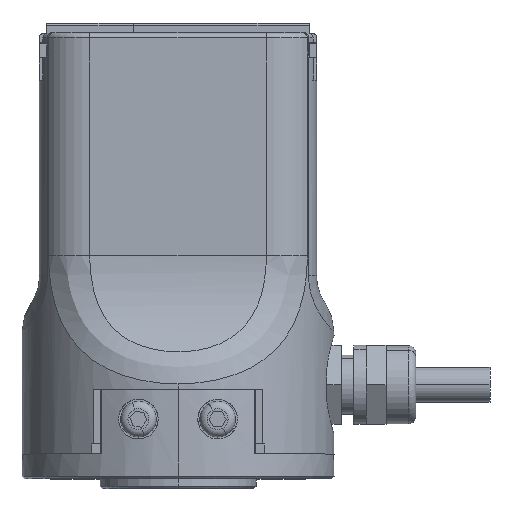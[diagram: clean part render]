
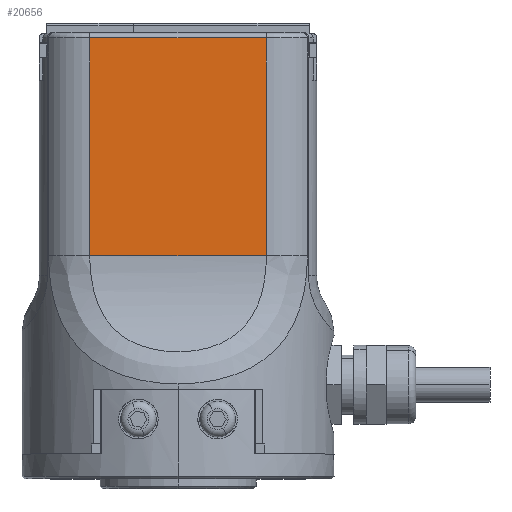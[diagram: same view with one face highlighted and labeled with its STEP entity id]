
A CAD part, top view. The second image highlights one B-rep face of the part: STEP entity #20656.
In plain terms, the highlighted planar face has unit normal (0, 0, 1).
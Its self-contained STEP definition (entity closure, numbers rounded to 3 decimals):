
#296 = DIRECTION ( 'NONE',  ( 0., 1., 0. ) ) ;
#1650 = LINE ( 'NONE', #12170, #8674 ) ;
#1836 = CARTESIAN_POINT ( 'NONE',  ( 17.84, -141.218, 22. ) ) ;
#2350 = VERTEX_POINT ( 'NONE', #5166 ) ;
#3551 = CARTESIAN_POINT ( 'NONE',  ( -31.5, -31., 22. ) ) ;
#5166 = CARTESIAN_POINT ( 'NONE',  ( -17.84, 13., 22. ) ) ;
#5976 = VERTEX_POINT ( 'NONE', #20044 ) ;
#6062 = FACE_OUTER_BOUND ( 'NONE', #15055, .T. ) ;
#6461 = VERTEX_POINT ( 'NONE', #10130 ) ;
#7856 = EDGE_CURVE ( 'NONE', #21318, #5976, #17137, .T. ) ;
#8674 = VECTOR ( 'NONE', #296, 1000. ) ;
#8715 = VECTOR ( 'NONE', #8875, 1000. ) ;
#8875 = DIRECTION ( 'NONE',  ( 0., 1., 0. ) ) ;
#9140 = LINE ( 'NONE', #20015, #16358 ) ;
#9539 = VECTOR ( 'NONE', #22221, 1000. ) ;
#9932 = DIRECTION ( 'NONE',  ( 1., 0., 0. ) ) ;
#10038 = DIRECTION ( 'NONE',  ( 0., 0., 1. ) ) ;
#10130 = CARTESIAN_POINT ( 'NONE',  ( -17.84, -31., 22. ) ) ;
#10479 = ORIENTED_EDGE ( 'NONE', *, *, #13871, .F. ) ;
#10801 = CARTESIAN_POINT ( 'NONE',  ( 17.84, -31., 22. ) ) ;
#11410 = DIRECTION ( 'NONE',  ( -1., 0., 0. ) ) ;
#12170 = CARTESIAN_POINT ( 'NONE',  ( -17.84, -141.218, 22. ) ) ;
#12972 = PLANE ( 'NONE',  #22237 ) ;
#13221 = EDGE_CURVE ( 'NONE', #6461, #21318, #15235, .T. ) ;
#13223 = ORIENTED_EDGE ( 'NONE', *, *, #13221, .T. ) ;
#13871 = EDGE_CURVE ( 'NONE', #6461, #2350, #1650, .T. ) ;
#15055 = EDGE_LOOP ( 'NONE', ( #10479, #13223, #19044, #15707 ) ) ;
#15235 = LINE ( 'NONE', #3551, #9539 ) ;
#15707 = ORIENTED_EDGE ( 'NONE', *, *, #17807, .T. ) ;
#16358 = VECTOR ( 'NONE', #11410, 1000. ) ;
#17137 = LINE ( 'NONE', #1836, #8715 ) ;
#17807 = EDGE_CURVE ( 'NONE', #5976, #2350, #9140, .T. ) ;
#19044 = ORIENTED_EDGE ( 'NONE', *, *, #7856, .T. ) ;
#20015 = CARTESIAN_POINT ( 'NONE',  ( 28., 13., 22. ) ) ;
#20044 = CARTESIAN_POINT ( 'NONE',  ( 17.84, 13., 22. ) ) ;
#20444 = CARTESIAN_POINT ( 'NONE',  ( 17.84, -141.218, 22. ) ) ;
#20656 = ADVANCED_FACE ( 'NONE', ( #6062 ), #12972, .T. ) ;
#21318 = VERTEX_POINT ( 'NONE', #10801 ) ;
#22221 = DIRECTION ( 'NONE',  ( 1., 0., 0. ) ) ;
#22237 = AXIS2_PLACEMENT_3D ( 'NONE', #20444, #10038, #9932 ) ;
